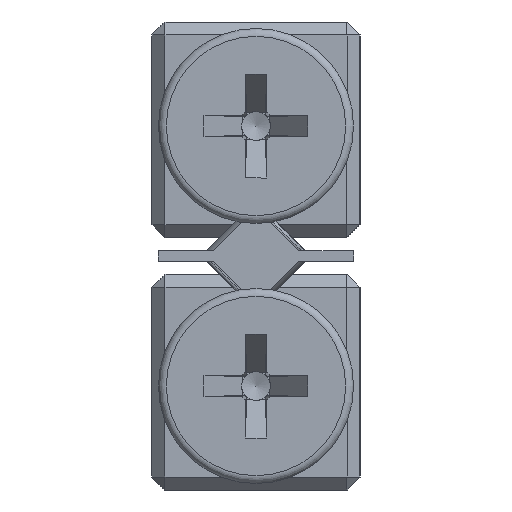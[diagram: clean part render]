
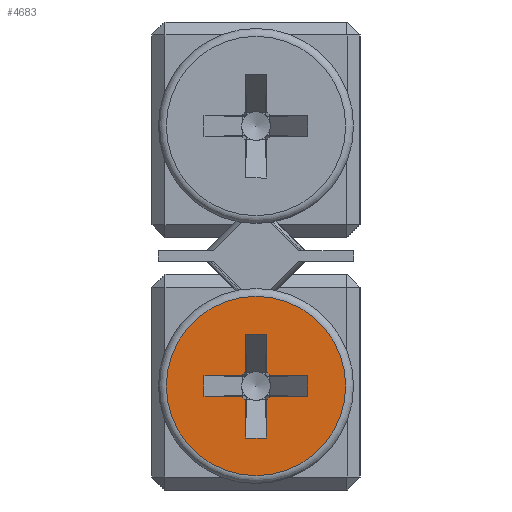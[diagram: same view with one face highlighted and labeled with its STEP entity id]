
A CAD part, left-side view. The second image highlights one B-rep face of the part: STEP entity #4683.
In plain terms, the highlighted planar face has unit normal (-1, 0, 0).
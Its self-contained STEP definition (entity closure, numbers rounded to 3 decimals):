
#170 = CARTESIAN_POINT ( 'NONE',  ( -64.5, 3.75, 4. ) ) ;
#314 = LINE ( 'NONE', #10767, #5613 ) ;
#433 = CARTESIAN_POINT ( 'NONE',  ( -64.5, -2., 3.6 ) ) ;
#461 = LINE ( 'NONE', #13921, #10864 ) ;
#589 = CARTESIAN_POINT ( 'NONE',  ( -64.5, -0.548, 4.4 ) ) ;
#636 = CIRCLE ( 'NONE', #11908, 0.678 ) ;
#854 = EDGE_CURVE ( 'NONE', #9521, #19031, #17012, .T. ) ;
#953 = VERTEX_POINT ( 'NONE', #433 ) ;
#955 = EDGE_CURVE ( 'NONE', #9521, #20218, #12127, .T. ) ;
#1132 = VERTEX_POINT ( 'NONE', #8137 ) ;
#1636 = AXIS2_PLACEMENT_3D ( 'NONE', #18844, #7333, #5372 ) ;
#2197 = ORIENTED_EDGE ( 'NONE', *, *, #18525, .T. ) ;
#2273 = LINE ( 'NONE', #17410, #2428 ) ;
#2349 = CIRCLE ( 'NONE', #1636, 0.678 ) ;
#2406 = EDGE_CURVE ( 'NONE', #1132, #19031, #12711, .T. ) ;
#2428 = VECTOR ( 'NONE', #12318, 1000. ) ;
#2779 = VERTEX_POINT ( 'NONE', #6081 ) ;
#2789 = CIRCLE ( 'NONE', #17961, 3.45 ) ;
#3207 = EDGE_CURVE ( 'NONE', #14916, #5626, #636, .T. ) ;
#3450 = VECTOR ( 'NONE', #17893, 1000. ) ;
#3517 = CARTESIAN_POINT ( 'NONE',  ( -64.5, -0.4, 3.452 ) ) ;
#3630 = ORIENTED_EDGE ( 'NONE', *, *, #12233, .F. ) ;
#3801 = VERTEX_POINT ( 'NONE', #21433 ) ;
#4007 = DIRECTION ( 'NONE',  ( -1., 0., 0. ) ) ;
#4148 = CARTESIAN_POINT ( 'NONE',  ( -64.5, 0.548, 4.4 ) ) ;
#4683 = ADVANCED_FACE ( 'NONE', ( #5379, #10545 ), #15396, .F. ) ;
#4759 = VERTEX_POINT ( 'NONE', #7342 ) ;
#4811 = EDGE_CURVE ( 'NONE', #14916, #11609, #10749, .T. ) ;
#4894 = LINE ( 'NONE', #21496, #11775 ) ;
#5031 = CARTESIAN_POINT ( 'NONE',  ( -64.5, 0., 4. ) ) ;
#5372 = DIRECTION ( 'NONE',  ( 0., 0., 1. ) ) ;
#5379 = FACE_OUTER_BOUND ( 'NONE', #16300, .T. ) ;
#5487 = DIRECTION ( 'NONE',  ( 0., -1., 0. ) ) ;
#5501 = DIRECTION ( 'NONE',  ( 0., 0., 1. ) ) ;
#5613 = VECTOR ( 'NONE', #5501, 1000. ) ;
#5626 = VERTEX_POINT ( 'NONE', #17684 ) ;
#5825 = VERTEX_POINT ( 'NONE', #16639 ) ;
#5983 = DIRECTION ( 'NONE',  ( 0., 1., 0. ) ) ;
#6046 = ORIENTED_EDGE ( 'NONE', *, *, #3207, .F. ) ;
#6081 = CARTESIAN_POINT ( 'NONE',  ( -64.5, 0., 0.55 ) ) ;
#6505 = CARTESIAN_POINT ( 'NONE',  ( -64.5, 0., 4. ) ) ;
#6527 = CARTESIAN_POINT ( 'NONE',  ( -64.5, -2., 3.6 ) ) ;
#6895 = DIRECTION ( 'NONE',  ( 0., 0., -1. ) ) ;
#7333 = DIRECTION ( 'NONE',  ( -1., 0., 0. ) ) ;
#7342 = CARTESIAN_POINT ( 'NONE',  ( -64.5, -0.4, 4.548 ) ) ;
#7391 = CARTESIAN_POINT ( 'NONE',  ( -64.5, 2., 4.4 ) ) ;
#7392 = EDGE_CURVE ( 'NONE', #5825, #8505, #4894, .T. ) ;
#7410 = ORIENTED_EDGE ( 'NONE', *, *, #19046, .T. ) ;
#7652 = EDGE_CURVE ( 'NONE', #953, #5626, #17466, .T. ) ;
#7831 = DIRECTION ( 'NONE',  ( -1., 0., 0. ) ) ;
#7928 = CARTESIAN_POINT ( 'NONE',  ( -64.5, 0., 4. ) ) ;
#7960 = DIRECTION ( 'NONE',  ( 0., 1., 0. ) ) ;
#7962 = VECTOR ( 'NONE', #19294, 1000. ) ;
#8137 = CARTESIAN_POINT ( 'NONE',  ( -64.5, 0.548, 3.6 ) ) ;
#8171 = ORIENTED_EDGE ( 'NONE', *, *, #854, .F. ) ;
#8209 = DIRECTION ( 'NONE',  ( 0., 0., 1. ) ) ;
#8247 = DIRECTION ( 'NONE',  ( -1., 0., 0. ) ) ;
#8482 = ORIENTED_EDGE ( 'NONE', *, *, #19003, .F. ) ;
#8505 = VERTEX_POINT ( 'NONE', #16516 ) ;
#8876 = LINE ( 'NONE', #17188, #14684 ) ;
#8975 = CARTESIAN_POINT ( 'NONE',  ( -64.5, 2., 3.6 ) ) ;
#9176 = EDGE_LOOP ( 'NONE', ( #6046, #16100, #16091, #2197, #8482, #9495, #8171, #14892, #12818, #7410, #19556, #9197, #10605, #20138, #3630, #18262 ) ) ;
#9197 = ORIENTED_EDGE ( 'NONE', *, *, #15980, .T. ) ;
#9262 = CARTESIAN_POINT ( 'NONE',  ( -64.5, 2., 4.4 ) ) ;
#9495 = ORIENTED_EDGE ( 'NONE', *, *, #2406, .T. ) ;
#9521 = VERTEX_POINT ( 'NONE', #9262 ) ;
#9582 = DIRECTION ( 'NONE',  ( 0., 0., 1. ) ) ;
#10378 = EDGE_CURVE ( 'NONE', #3801, #20218, #17212, .T. ) ;
#10500 = VERTEX_POINT ( 'NONE', #15506 ) ;
#10545 = FACE_BOUND ( 'NONE', #9176, .T. ) ;
#10605 = ORIENTED_EDGE ( 'NONE', *, *, #17471, .F. ) ;
#10607 = VERTEX_POINT ( 'NONE', #589 ) ;
#10634 = CARTESIAN_POINT ( 'NONE',  ( -64.5, -0.4, 2. ) ) ;
#10749 = LINE ( 'NONE', #12731, #7962 ) ;
#10767 = CARTESIAN_POINT ( 'NONE',  ( -64.5, 0.4, 2. ) ) ;
#10864 = VECTOR ( 'NONE', #16823, 1000. ) ;
#10943 = ORIENTED_EDGE ( 'NONE', *, *, #12041, .T. ) ;
#11022 = CARTESIAN_POINT ( 'NONE',  ( -64.5, -2., 3.6 ) ) ;
#11184 = AXIS2_PLACEMENT_3D ( 'NONE', #5031, #14843, #8209 ) ;
#11609 = VERTEX_POINT ( 'NONE', #10634 ) ;
#11775 = VECTOR ( 'NONE', #7960, 1000. ) ;
#11908 = AXIS2_PLACEMENT_3D ( 'NONE', #7928, #8247, #20122 ) ;
#12041 = EDGE_CURVE ( 'NONE', #2779, #2779, #2789, .T. ) ;
#12127 = LINE ( 'NONE', #12669, #3450 ) ;
#12233 = EDGE_CURVE ( 'NONE', #953, #19892, #18475, .T. ) ;
#12318 = DIRECTION ( 'NONE',  ( 0., -1., 0. ) ) ;
#12378 = CARTESIAN_POINT ( 'NONE',  ( -64.5, 0., 4. ) ) ;
#12487 = CARTESIAN_POINT ( 'NONE',  ( -64.5, -2., 3.6 ) ) ;
#12669 = CARTESIAN_POINT ( 'NONE',  ( -64.5, 2., 4.4 ) ) ;
#12711 = LINE ( 'NONE', #12487, #14059 ) ;
#12731 = CARTESIAN_POINT ( 'NONE',  ( -64.5, -0.4, 6. ) ) ;
#12818 = ORIENTED_EDGE ( 'NONE', *, *, #10378, .F. ) ;
#13641 = CARTESIAN_POINT ( 'NONE',  ( -64.5, 2., 4.4 ) ) ;
#13851 = DIRECTION ( 'NONE',  ( 1., 0., 0. ) ) ;
#13921 = CARTESIAN_POINT ( 'NONE',  ( -64.5, -0.4, 6. ) ) ;
#14059 = VECTOR ( 'NONE', #14253, 1000. ) ;
#14253 = DIRECTION ( 'NONE',  ( 0., 1., 0. ) ) ;
#14655 = AXIS2_PLACEMENT_3D ( 'NONE', #170, #13851, #6895 ) ;
#14684 = VECTOR ( 'NONE', #15609, 1000. ) ;
#14843 = DIRECTION ( 'NONE',  ( -1., 0., 0. ) ) ;
#14892 = ORIENTED_EDGE ( 'NONE', *, *, #955, .T. ) ;
#14916 = VERTEX_POINT ( 'NONE', #3517 ) ;
#15171 = EDGE_CURVE ( 'NONE', #10607, #19892, #20643, .T. ) ;
#15396 = PLANE ( 'NONE',  #14655 ) ;
#15506 = CARTESIAN_POINT ( 'NONE',  ( -64.5, 0.4, 2. ) ) ;
#15609 = DIRECTION ( 'NONE',  ( 0., 0., 1. ) ) ;
#15631 = CARTESIAN_POINT ( 'NONE',  ( -64.5, -2., 4.4 ) ) ;
#15796 = DIRECTION ( 'NONE',  ( 0., 0., -1. ) ) ;
#15980 = EDGE_CURVE ( 'NONE', #5825, #4759, #461, .T. ) ;
#16091 = ORIENTED_EDGE ( 'NONE', *, *, #21257, .F. ) ;
#16100 = ORIENTED_EDGE ( 'NONE', *, *, #4811, .T. ) ;
#16300 = EDGE_LOOP ( 'NONE', ( #10943 ) ) ;
#16514 = VECTOR ( 'NONE', #5487, 1000. ) ;
#16516 = CARTESIAN_POINT ( 'NONE',  ( -64.5, 0.4, 6. ) ) ;
#16639 = CARTESIAN_POINT ( 'NONE',  ( -64.5, -0.4, 6. ) ) ;
#16823 = DIRECTION ( 'NONE',  ( 0., 0., -1. ) ) ;
#16871 = VECTOR ( 'NONE', #17345, 1000. ) ;
#16879 = AXIS2_PLACEMENT_3D ( 'NONE', #6505, #7831, #9582 ) ;
#17012 = LINE ( 'NONE', #7391, #16871 ) ;
#17188 = CARTESIAN_POINT ( 'NONE',  ( -64.5, 0.4, 2. ) ) ;
#17212 = CIRCLE ( 'NONE', #11184, 0.678 ) ;
#17345 = DIRECTION ( 'NONE',  ( 0., 0., -1. ) ) ;
#17410 = CARTESIAN_POINT ( 'NONE',  ( -64.5, 0.4, 2. ) ) ;
#17466 = LINE ( 'NONE', #11022, #18184 ) ;
#17471 = EDGE_CURVE ( 'NONE', #10607, #4759, #18662, .T. ) ;
#17684 = CARTESIAN_POINT ( 'NONE',  ( -64.5, -0.548, 3.6 ) ) ;
#17893 = DIRECTION ( 'NONE',  ( 0., -1., 0. ) ) ;
#17961 = AXIS2_PLACEMENT_3D ( 'NONE', #12378, #4007, #15796 ) ;
#18184 = VECTOR ( 'NONE', #5983, 1000. ) ;
#18262 = ORIENTED_EDGE ( 'NONE', *, *, #7652, .T. ) ;
#18475 = LINE ( 'NONE', #6527, #21134 ) ;
#18525 = EDGE_CURVE ( 'NONE', #10500, #21695, #314, .T. ) ;
#18662 = CIRCLE ( 'NONE', #16879, 0.678 ) ;
#18844 = CARTESIAN_POINT ( 'NONE',  ( -64.5, 0., 4. ) ) ;
#19003 = EDGE_CURVE ( 'NONE', #1132, #21695, #2349, .T. ) ;
#19031 = VERTEX_POINT ( 'NONE', #8975 ) ;
#19046 = EDGE_CURVE ( 'NONE', #3801, #8505, #8876, .T. ) ;
#19294 = DIRECTION ( 'NONE',  ( 0., 0., -1. ) ) ;
#19556 = ORIENTED_EDGE ( 'NONE', *, *, #7392, .F. ) ;
#19892 = VERTEX_POINT ( 'NONE', #15631 ) ;
#20122 = DIRECTION ( 'NONE',  ( 0., 0., 1. ) ) ;
#20138 = ORIENTED_EDGE ( 'NONE', *, *, #15171, .T. ) ;
#20148 = CARTESIAN_POINT ( 'NONE',  ( -64.5, 0.4, 3.452 ) ) ;
#20218 = VERTEX_POINT ( 'NONE', #4148 ) ;
#20643 = LINE ( 'NONE', #13641, #16514 ) ;
#21134 = VECTOR ( 'NONE', #21801, 1000. ) ;
#21257 = EDGE_CURVE ( 'NONE', #10500, #11609, #2273, .T. ) ;
#21433 = CARTESIAN_POINT ( 'NONE',  ( -64.5, 0.4, 4.548 ) ) ;
#21496 = CARTESIAN_POINT ( 'NONE',  ( -64.5, -0.4, 6. ) ) ;
#21695 = VERTEX_POINT ( 'NONE', #20148 ) ;
#21801 = DIRECTION ( 'NONE',  ( 0., 0., 1. ) ) ;
